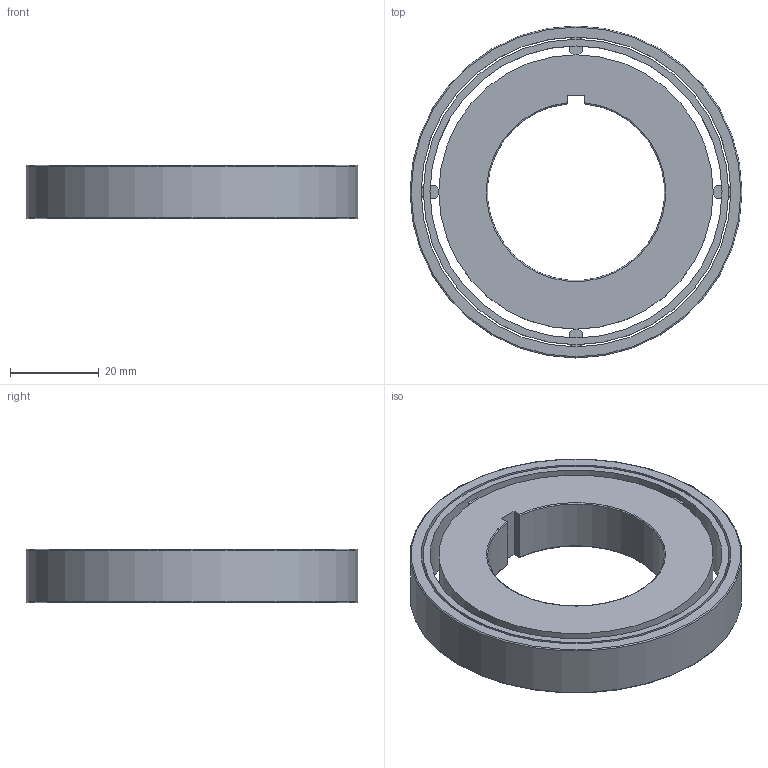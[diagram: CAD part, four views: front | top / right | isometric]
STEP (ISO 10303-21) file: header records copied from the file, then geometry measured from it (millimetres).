
FILE_DESCRIPTION(/* description */ (''),/* implementation_level */ '2;1');
FILE_NAME(/* name */ '300644 FRN 470 M.stp',/* time_stamp */ '2016-11-03T17:24:54+01:00',/* author */ (''),/* organization */ (''),/* preprocessor_version */ 'ST-DEVELOPER v15',/* originating_system */ 'SIEMENS PLM Software NX 8.5',/* authorisation */ '');
FILE_SCHEMA (('CONFIG_CONTROL_DESIGN'));
Length unit declared in the file: millimetre
Products named in the file (2): ATE0000080_01; ATE0000085_01
Assembly tree (1 placements, depth 2):
  ATE0000085_01
    ATE0000080_01
Bounding box: 75 x 75 x 12 mm (x, y, z)
Volume: 30901.2 mm3; surface area: 20049.3 mm2
Topology: 3 solids, 3 shells, 63 faces, 145 edges, 96 vertices
Faces by surface type: plane 43, cylinder 16, torus 4
Full cylindrical faces by diameter (mm): 62 x1, 66 x1, 68 x1, 69 x2, 70 x1, 75 x1
Entity records: 1973 total; most frequent: CARTESIAN_POINT 359, DIRECTION 308, ORIENTED_EDGE 260, EDGE_CURVE 130, AXIS2_PLACEMENT_3D 117, VERTEX_POINT 92, EDGE_LOOP 88, LINE 74
